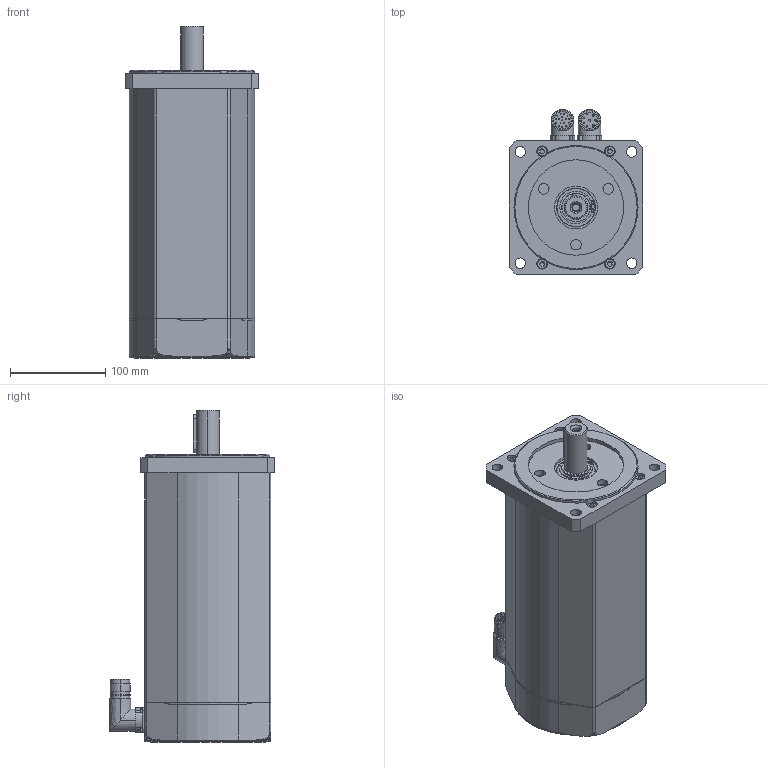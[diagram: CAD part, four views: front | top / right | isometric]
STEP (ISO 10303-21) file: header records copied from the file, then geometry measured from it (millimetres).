
FILE_DESCRIPTION (( 'STEP AP203' ), '1' );
FILE_NAME ('SSAX140XL_SF.STEP', '2015-09-10T12:40:15', ( 'Tecnico motori' ), ( '' ), 'SwSTEP 2.0', 'SolidWorks 2010', '' );
FILE_SCHEMA (( 'CONFIG_CONTROL_DESIGN' ));
Length unit declared in the file: millimetre
Products named in the file (1): SSAX140XL_SF
Bounding box: 140 x 173 x 347.85 mm (x, y, z)
Surface area: 207991.9 mm2 (no closed solid volume)
Topology: 0 solids, 30 shells, 452 faces, 1256 edges, 866 vertices
Faces by surface type: cylinder 209, plane 185, cone 28, torus 24, bspline 6
Entity records: 15656 total; most frequent: CARTESIAN_POINT 3655, DIRECTION 2685, ORIENTED_EDGE 2191, EDGE_CURVE 1256, AXIS2_PLACEMENT_3D 1054, VERTEX_POINT 866, CIRCLE 607, VECTOR 577
